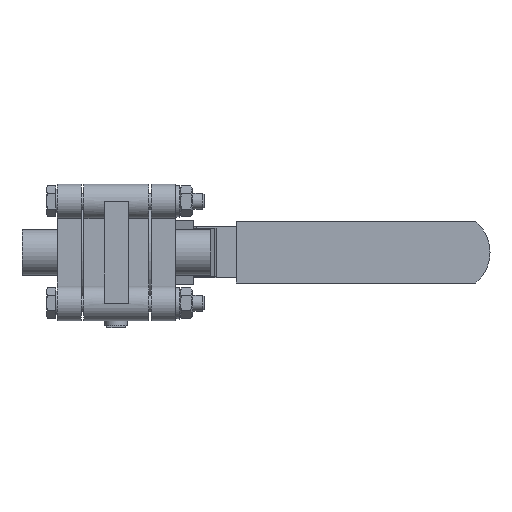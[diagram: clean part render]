
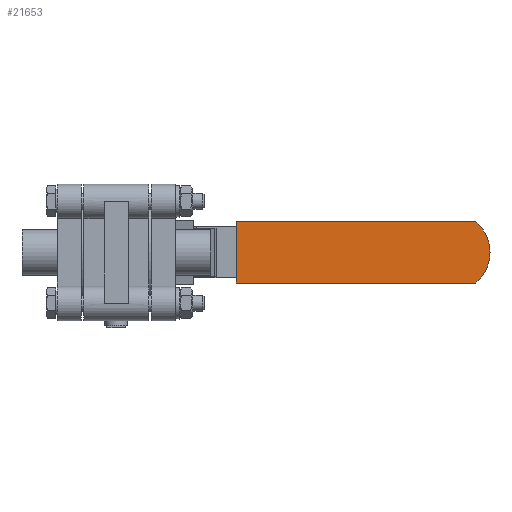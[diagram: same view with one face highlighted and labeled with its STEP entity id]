
A CAD part, front view. The second image highlights one B-rep face of the part: STEP entity #21653.
In plain terms, the highlighted planar face has unit normal (0, -1, 0).
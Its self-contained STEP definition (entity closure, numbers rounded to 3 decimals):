
#1112=PLANE('',#22989);
#3022=FACE_OUTER_BOUND('',#4213,.T.);
#4213=EDGE_LOOP('',(#15835,#15836,#15837,#15838));
#5508=CIRCLE('',#22987,15.);
#6400=LINE('',#30744,#8261);
#6402=LINE('',#30748,#8263);
#6403=LINE('',#30749,#8264);
#8261=VECTOR('',#25319,10.);
#8263=VECTOR('',#25323,10.);
#8264=VECTOR('',#25324,10.);
#10155=VERTEX_POINT('',#30737);
#10156=VERTEX_POINT('',#30738);
#10157=VERTEX_POINT('',#30743);
#10158=VERTEX_POINT('',#30747);
#12347=EDGE_CURVE('',#10155,#10156,#5508,.T.);
#12350=EDGE_CURVE('',#10157,#10155,#6400,.T.);
#12352=EDGE_CURVE('',#10158,#10156,#6402,.T.);
#12353=EDGE_CURVE('',#10157,#10158,#6403,.T.);
#15835=ORIENTED_EDGE('',*,*,#12347,.T.);
#15836=ORIENTED_EDGE('',*,*,#12352,.F.);
#15837=ORIENTED_EDGE('',*,*,#12353,.F.);
#15838=ORIENTED_EDGE('',*,*,#12350,.T.);
#21653=ADVANCED_FACE('',(#3022),#1112,.T.);
#22987=AXIS2_PLACEMENT_3D('',#30739,#25313,#25314);
#22989=AXIS2_PLACEMENT_3D('',#30746,#25321,#25322);
#25313=DIRECTION('center_axis',(0.,-1.,0.));
#25314=DIRECTION('ref_axis',(0.642,0.,0.767));
#25319=DIRECTION('',(1.,0.,0.));
#25321=DIRECTION('center_axis',(0.,-1.,0.));
#25322=DIRECTION('ref_axis',(0.,0.,
-1.));
#25323=DIRECTION('',(1.,0.,0.));
#25324=DIRECTION('',(0.,0.,1.));
#30737=CARTESIAN_POINT('',(105.58,196.711,-15.692));
#30738=CARTESIAN_POINT('',(105.58,196.711,7.308));
#30739=CARTESIAN_POINT('Origin',(95.95,196.711,-4.192));
#30743=CARTESIAN_POINT('',(15.95,196.711,-15.692));
#30744=CARTESIAN_POINT('',(15.95,196.711,-15.692));
#30746=CARTESIAN_POINT('Origin',(15.95,196.711,7.308));
#30747=CARTESIAN_POINT('',(15.95,196.711,7.308));
#30748=CARTESIAN_POINT('',(15.95,196.711,7.308));
#30749=CARTESIAN_POINT('',(15.95,196.711,-15.692));
